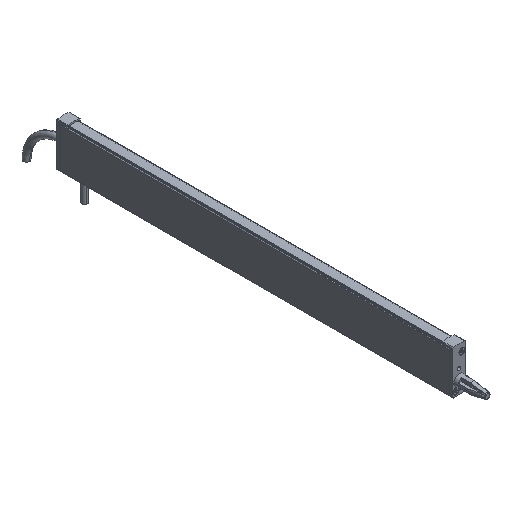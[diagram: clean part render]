
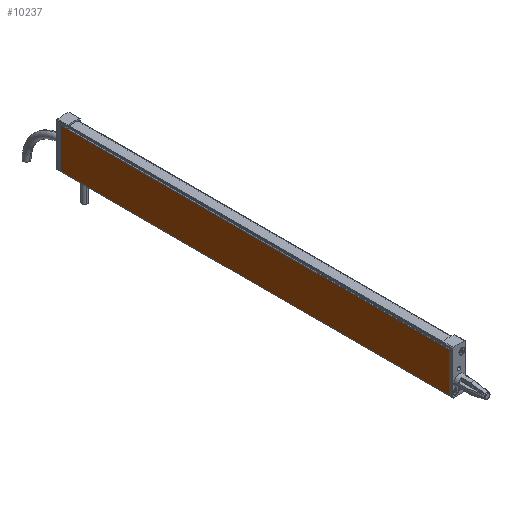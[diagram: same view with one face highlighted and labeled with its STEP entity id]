
A CAD part, isometric view. The second image highlights one B-rep face of the part: STEP entity #10237.
In plain terms, the highlighted planar face has unit normal (-1, 0, 0).
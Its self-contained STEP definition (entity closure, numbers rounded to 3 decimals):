
#509 = EDGE_LOOP ( 'NONE', ( #18743, #13315, #1643, #7948 ) ) ;
#870 = CARTESIAN_POINT ( 'NONE',  ( -9., 275., 0.5 ) ) ;
#1224 = EDGE_CURVE ( 'NONE', #18684, #5291, #3642, .T. ) ;
#1572 = VERTEX_POINT ( 'NONE', #7328 ) ;
#1643 = ORIENTED_EDGE ( 'NONE', *, *, #18193, .T. ) ;
#3642 = LINE ( 'NONE', #7069, #11910 ) ;
#5291 = VERTEX_POINT ( 'NONE', #18467 ) ;
#5818 = DIRECTION ( 'NONE',  ( 0., 0., -1. ) ) ;
#6730 = VECTOR ( 'NONE', #5818, 1000. ) ;
#7069 = CARTESIAN_POINT ( 'NONE',  ( -9., 275., 0.5 ) ) ;
#7328 = CARTESIAN_POINT ( 'NONE',  ( -9., 275., 28.5 ) ) ;
#7434 = VERTEX_POINT ( 'NONE', #19600 ) ;
#7948 = ORIENTED_EDGE ( 'NONE', *, *, #1224, .T. ) ;
#8418 = PLANE ( 'NONE',  #19635 ) ;
#8542 = DIRECTION ( 'NONE',  ( 0., -1., 0. ) ) ;
#8557 = DIRECTION ( 'NONE',  ( -1., 0., 0. ) ) ;
#8927 = CARTESIAN_POINT ( 'NONE',  ( -9., 0., 28.5 ) ) ;
#9335 = VECTOR ( 'NONE', #16770, 1000. ) ;
#10237 = ADVANCED_FACE ( 'NONE', ( #12484 ), #8418, .T. ) ;
#10903 = LINE ( 'NONE', #8927, #6730 ) ;
#11250 = LINE ( 'NONE', #12819, #15445 ) ;
#11384 = EDGE_CURVE ( 'NONE', #7434, #5291, #10903, .T. ) ;
#11719 = DIRECTION ( 'NONE',  ( 0., -1., 0. ) ) ;
#11910 = VECTOR ( 'NONE', #8542, 1000. ) ;
#12484 = FACE_OUTER_BOUND ( 'NONE', #509, .T. ) ;
#12819 = CARTESIAN_POINT ( 'NONE',  ( -9., 275., 28.5 ) ) ;
#13190 = EDGE_CURVE ( 'NONE', #1572, #7434, #11250, .T. ) ;
#13315 = ORIENTED_EDGE ( 'NONE', *, *, #13190, .F. ) ;
#15004 = CARTESIAN_POINT ( 'NONE',  ( -9., 275., 28.5 ) ) ;
#15445 = VECTOR ( 'NONE', #19205, 1000. ) ;
#16770 = DIRECTION ( 'NONE',  ( 0., 0., -1. ) ) ;
#18193 = EDGE_CURVE ( 'NONE', #1572, #18684, #18897, .T. ) ;
#18467 = CARTESIAN_POINT ( 'NONE',  ( -9., 0., 0.5 ) ) ;
#18684 = VERTEX_POINT ( 'NONE', #870 ) ;
#18743 = ORIENTED_EDGE ( 'NONE', *, *, #11384, .F. ) ;
#18897 = LINE ( 'NONE', #15004, #9335 ) ;
#19205 = DIRECTION ( 'NONE',  ( 0., -1., 0. ) ) ;
#19434 = CARTESIAN_POINT ( 'NONE',  ( -9., 275., 28.5 ) ) ;
#19600 = CARTESIAN_POINT ( 'NONE',  ( -9., 0., 28.5 ) ) ;
#19635 = AXIS2_PLACEMENT_3D ( 'NONE', #19434, #8557, #11719 ) ;
